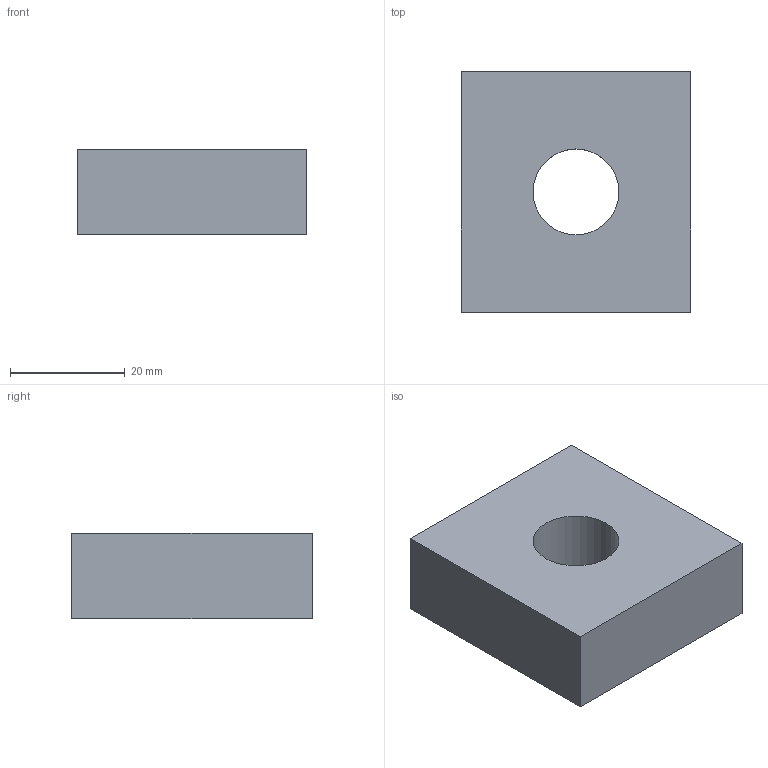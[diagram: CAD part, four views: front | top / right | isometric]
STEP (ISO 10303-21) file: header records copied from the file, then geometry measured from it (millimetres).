
FILE_DESCRIPTION( ( 'Unknown' ), '1' );
FILE_NAME( 'F:/navkite transat/construction/2016/3D ET ASSEMBLAGES/desal/DES 12.stp', 'Unknown', ( 'GMA' ), ( 'Unknown' ), 'XStep 1.0', 'Unknown', ' ' );
FILE_SCHEMA( ( 'automotive_design' ) );
Length unit declared in the file: millimetre
Products named in the file (1): 1
Bounding box: 40 x 42 x 15 mm (x, y, z)
Volume: 22549.3 mm3; surface area: 6173.4 mm2
Topology: 1 solids, 1 shells, 7 faces, 15 edges, 10 vertices
Faces by surface type: plane 6, cylinder 1
Full cylindrical faces by diameter (mm): 15 x1
Entity records: 262 total; most frequent: CARTESIAN_POINT 32, DIRECTION 32, ORIENTED_EDGE 28, EDGE_CURVE 14, LINE 12, VECTOR 12, AXIS2_PLACEMENT_3D 10, EDGE_LOOP 10
